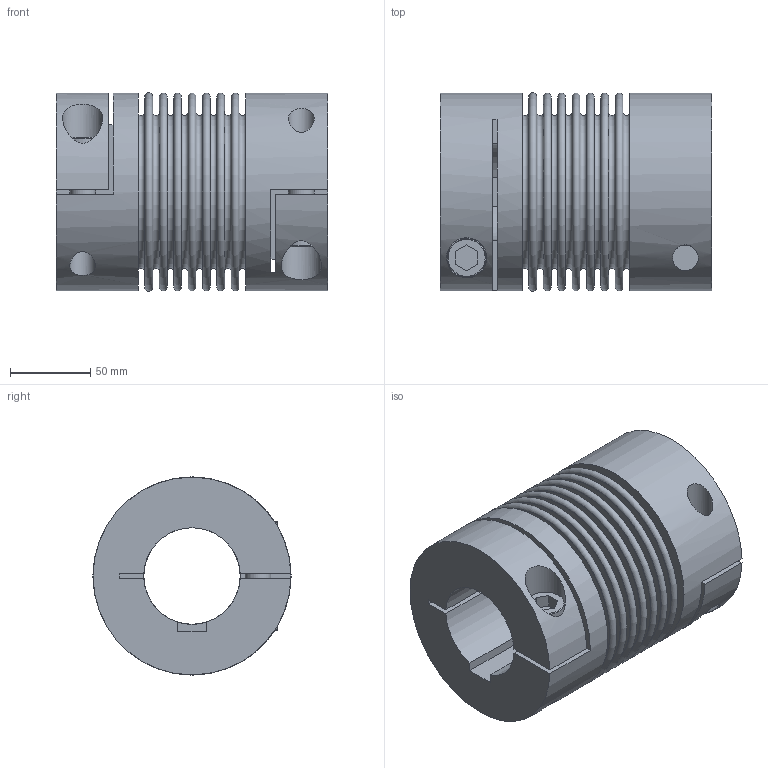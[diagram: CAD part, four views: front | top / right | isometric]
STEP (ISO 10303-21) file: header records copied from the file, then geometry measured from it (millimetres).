
FILE_DESCRIPTION(/* description */ ('STEP AP214'),/* implementation_level */ '2;1');
FILE_NAME(/* name */ 'C:\Diequa Files\DieQua Coupling\Website Step Files\BC.500.169.#.#.stp',/* time_stamp */ '2018-10-25T16:20:55-05:00',/* author */ ('DiequaCAD'),/* organization */ (''),/* preprocessor_version */ 'ST-DEVELOPER v17.2',/* originating_system */ 'Autodesk Inventor 2019',/* authorisation */ ' ');
FILE_SCHEMA (('AUTOMOTIVE_DESIGN { 1 0 10303 214 3 1 1 }'));
Length unit declared in the file: millimetre
Products named in the file (1): BC2.500.169.#.#
Bounding box: 169 x 123.3 x 123.3 mm (x, y, z)
Volume: 883815.5 mm3; surface area: 286014.2 mm2
Topology: 1 solids, 1 shells, 121 faces, 306 edges, 224 vertices
Faces by surface type: plane 75, torus 32, cylinder 14
Full cylindrical faces by diameter (mm): 16 x4, 24 x2, 25 x2, 123 x2
Entity records: 4042 total; most frequent: CARTESIAN_POINT 810, DIRECTION 734, ORIENTED_EDGE 612, AXIS2_PLACEMENT_3D 312, EDGE_CURVE 306, VERTEX_POINT 224, CIRCLE 190, EDGE_LOOP 166
